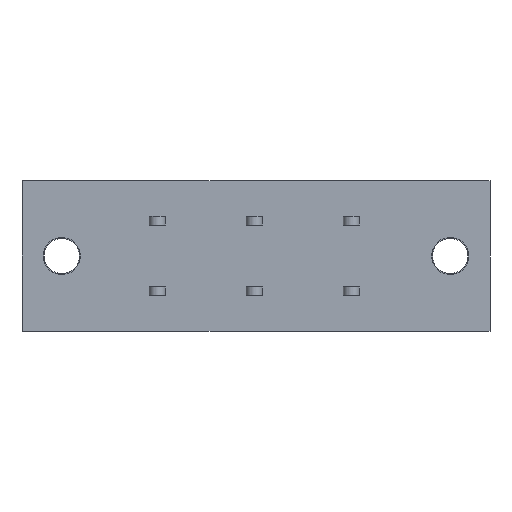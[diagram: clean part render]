
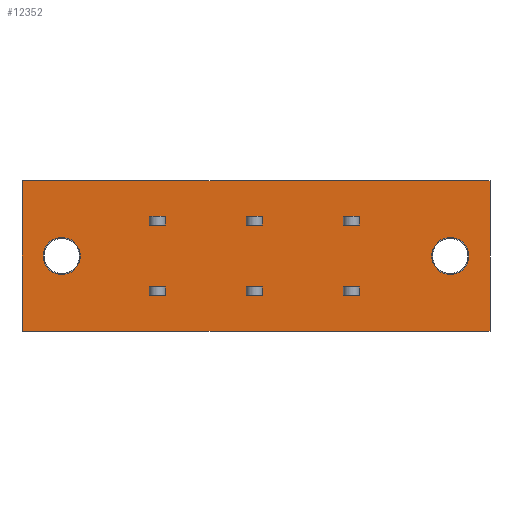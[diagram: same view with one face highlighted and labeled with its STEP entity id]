
A CAD part, front view. The second image highlights one B-rep face of the part: STEP entity #12352.
In plain terms, the highlighted planar face has unit normal (0, -1, 0).
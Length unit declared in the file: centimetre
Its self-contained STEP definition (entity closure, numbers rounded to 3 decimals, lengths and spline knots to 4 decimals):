
#908=VECTOR('',#13540,1.);
#1399=VECTOR('',#14339,1.);
#1568=VECTOR('',#14782,1.);
#1572=VECTOR('',#14787,1.);
#1578=VECTOR('',#14797,1.);
#1581=VECTOR('',#14803,1.);
#1584=VECTOR('',#14807,1.);
#1596=VECTOR('',#14843,1.);
#1597=VECTOR('',#14845,1.);
#1608=VECTOR('',#14861,1.);
#1618=VECTOR('',#14878,1.);
#1619=VECTOR('',#14879,1.);
#1620=VECTOR('',#14880,1.);
#1621=VECTOR('',#14881,1.);
#1622=VECTOR('',#14882,1.);
#1623=VECTOR('',#14883,1.);
#1624=VECTOR('',#14884,1.);
#1625=VECTOR('',#14885,1.);
#1626=VECTOR('',#14886,1.);
#1627=VECTOR('',#14887,1.);
#1628=VECTOR('',#14888,1.);
#1629=VECTOR('',#14889,1.);
#1630=VECTOR('',#14890,1.);
#1631=VECTOR('',#14891,1.);
#1632=VECTOR('',#14892,1.);
#1633=VECTOR('',#14893,1.);
#1634=VECTOR('',#14894,1.);
#1635=VECTOR('',#14895,1.);
#2280=LINE('',#17008,#908);
#2771=LINE('',#18847,#1399);
#2940=LINE('',#19402,#1568);
#2944=LINE('',#19411,#1572);
#2950=LINE('',#19426,#1578);
#2953=LINE('',#19435,#1581);
#2956=LINE('',#19441,#1584);
#2968=LINE('',#19476,#1596);
#2969=LINE('',#19478,#1597);
#2980=LINE('',#19499,#1608);
#2990=LINE('',#19521,#1618);
#2991=LINE('',#19524,#1619);
#2992=LINE('',#19526,#1620);
#2993=LINE('',#19528,#1621);
#2994=LINE('',#19529,#1622);
#2995=LINE('',#19532,#1623);
#2996=LINE('',#19534,#1624);
#2997=LINE('',#19536,#1625);
#2998=LINE('',#19537,#1626);
#2999=LINE('',#19540,#1627);
#3000=LINE('',#19542,#1628);
#3001=LINE('',#19544,#1629);
#3002=LINE('',#19545,#1630);
#3003=LINE('',#19548,#1631);
#3004=LINE('',#19550,#1632);
#3005=LINE('',#19552,#1633);
#3006=LINE('',#19553,#1634);
#3007=LINE('',#19554,#1635);
#3659=VERTEX_POINT('',#17009);
#3660=VERTEX_POINT('',#17010);
#3671=VERTEX_POINT('',#17034);
#4106=VERTEX_POINT('',#18848);
#4107=VERTEX_POINT('',#18849);
#4118=VERTEX_POINT('',#18873);
#4289=VERTEX_POINT('',#19403);
#4290=VERTEX_POINT('',#19404);
#4293=VERTEX_POINT('',#19412);
#4299=VERTEX_POINT('',#19427);
#4300=VERTEX_POINT('',#19428);
#4303=VERTEX_POINT('',#19436);
#4305=VERTEX_POINT('',#19442);
#4314=VERTEX_POINT('',#19479);
#4325=VERTEX_POINT('',#19522);
#4326=VERTEX_POINT('',#19523);
#4327=VERTEX_POINT('',#19525);
#4328=VERTEX_POINT('',#19527);
#4329=VERTEX_POINT('',#19530);
#4330=VERTEX_POINT('',#19531);
#4331=VERTEX_POINT('',#19533);
#4332=VERTEX_POINT('',#19535);
#4333=VERTEX_POINT('',#19538);
#4334=VERTEX_POINT('',#19539);
#4335=VERTEX_POINT('',#19541);
#4336=VERTEX_POINT('',#19543);
#4337=VERTEX_POINT('',#19546);
#4338=VERTEX_POINT('',#19547);
#4339=VERTEX_POINT('',#19549);
#4340=VERTEX_POINT('',#19551);
#4547=CIRCLE('',#20381,0.21);
#4590=CIRCLE('',#20618,0.21);
#5273=EDGE_CURVE('',#3659,#3660,#2280,.T.);
#5285=EDGE_CURVE('',#3671,#3671,#4547,.T.);
#5928=EDGE_CURVE('',#4106,#4107,#2771,.T.);
#5940=EDGE_CURVE('',#4118,#4118,#4590,.T.);
#6189=EDGE_CURVE('',#4289,#4290,#2940,.T.);
#6193=EDGE_CURVE('',#4293,#4289,#2944,.T.);
#6200=EDGE_CURVE('',#4299,#4300,#2950,.T.);
#6204=EDGE_CURVE('',#4303,#4299,#2953,.T.);
#6207=EDGE_CURVE('',#4305,#4303,#2956,.T.);
#6225=EDGE_CURVE('',#4300,#4305,#2968,.T.);
#6226=EDGE_CURVE('',#4314,#4293,#2969,.T.);
#6237=EDGE_CURVE('',#4290,#4314,#2980,.T.);
#6248=EDGE_CURVE('',#4325,#4326,#2990,.T.);
#6249=EDGE_CURVE('',#4327,#4325,#2991,.T.);
#6250=EDGE_CURVE('',#4328,#4327,#2992,.T.);
#6251=EDGE_CURVE('',#4326,#4328,#2993,.T.);
#6252=EDGE_CURVE('',#4329,#4330,#2994,.T.);
#6253=EDGE_CURVE('',#4331,#4329,#2995,.T.);
#6254=EDGE_CURVE('',#4332,#4331,#2996,.T.);
#6255=EDGE_CURVE('',#4330,#4332,#2997,.T.);
#6256=EDGE_CURVE('',#4333,#4334,#2998,.T.);
#6257=EDGE_CURVE('',#4334,#4335,#2999,.T.);
#6258=EDGE_CURVE('',#4335,#4336,#3000,.T.);
#6259=EDGE_CURVE('',#4336,#4333,#3001,.T.);
#6260=EDGE_CURVE('',#4337,#4338,#3002,.T.);
#6261=EDGE_CURVE('',#4338,#4339,#3003,.T.);
#6262=EDGE_CURVE('',#4339,#4340,#3004,.T.);
#6263=EDGE_CURVE('',#4340,#4337,#3005,.T.);
#6264=EDGE_CURVE('',#4107,#3659,#3006,.T.);
#6265=EDGE_CURVE('',#3660,#4106,#3007,.T.);
#9520=ORIENTED_EDGE('',*,*,#5285,.T.);
#9521=ORIENTED_EDGE('',*,*,#5940,.T.);
#9522=ORIENTED_EDGE('',*,*,#6248,.F.);
#9523=ORIENTED_EDGE('',*,*,#6249,.F.);
#9524=ORIENTED_EDGE('',*,*,#6250,.F.);
#9525=ORIENTED_EDGE('',*,*,#6251,.F.);
#9526=ORIENTED_EDGE('',*,*,#6252,.F.);
#9527=ORIENTED_EDGE('',*,*,#6253,.F.);
#9528=ORIENTED_EDGE('',*,*,#6254,.F.);
#9529=ORIENTED_EDGE('',*,*,#6255,.F.);
#9530=ORIENTED_EDGE('',*,*,#6256,.T.);
#9531=ORIENTED_EDGE('',*,*,#6257,.T.);
#9532=ORIENTED_EDGE('',*,*,#6258,.T.);
#9533=ORIENTED_EDGE('',*,*,#6259,.T.);
#9534=ORIENTED_EDGE('',*,*,#6260,.T.);
#9535=ORIENTED_EDGE('',*,*,#6261,.T.);
#9536=ORIENTED_EDGE('',*,*,#6262,.T.);
#9537=ORIENTED_EDGE('',*,*,#6263,.T.);
#9538=ORIENTED_EDGE('',*,*,#6264,.T.);
#9539=ORIENTED_EDGE('',*,*,#5273,.T.);
#9540=ORIENTED_EDGE('',*,*,#6265,.T.);
#9541=ORIENTED_EDGE('',*,*,#5928,.T.);
#9542=ORIENTED_EDGE('',*,*,#6207,.T.);
#9543=ORIENTED_EDGE('',*,*,#6204,.T.);
#9544=ORIENTED_EDGE('',*,*,#6200,.T.);
#9545=ORIENTED_EDGE('',*,*,#6225,.T.);
#9546=ORIENTED_EDGE('',*,*,#6193,.T.);
#9547=ORIENTED_EDGE('',*,*,#6189,.T.);
#9548=ORIENTED_EDGE('',*,*,#6237,.T.);
#9549=ORIENTED_EDGE('',*,*,#6226,.T.);
#10884=EDGE_LOOP('',(#9520));
#10885=EDGE_LOOP('',(#9521));
#10886=EDGE_LOOP('',(#9522,#9523,#9524,#9525));
#10887=EDGE_LOOP('',(#9526,#9527,#9528,#9529));
#10888=EDGE_LOOP('',(#9530,#9531,#9532,#9533));
#10889=EDGE_LOOP('',(#9534,#9535,#9536,#9537));
#10890=EDGE_LOOP('',(#9538,#9539,#9540,#9541));
#10891=EDGE_LOOP('',(#9542,#9543,#9544,#9545));
#10892=EDGE_LOOP('',(#9546,#9547,#9548,#9549));
#11650=FACE_BOUND('',#10884,.T.);
#11651=FACE_BOUND('',#10885,.T.);
#11652=FACE_BOUND('',#10886,.T.);
#11653=FACE_BOUND('',#10887,.T.);
#11654=FACE_BOUND('',#10888,.T.);
#11655=FACE_BOUND('',#10889,.T.);
#11656=FACE_BOUND('',#10890,.T.);
#11657=FACE_BOUND('',#10891,.T.);
#11658=FACE_BOUND('',#10892,.T.);
#12352=ADVANCED_FACE('',(#11650,#11651,#11652,#11653,#11654,#11655,#11656,
#11657,#11658),#12863,.T.);
#12863=PLANE('',#20808);
#13540=DIRECTION('',(0.,0.,1.));
#13558=DIRECTION('',(0.,1.,0.));
#13559=DIRECTION('',(0.21,0.,0.));
#14339=DIRECTION('',(0.,0.,-1.));
#14357=DIRECTION('',(0.,1.,0.));
#14358=DIRECTION('',(-0.21,0.,0.));
#14782=DIRECTION('',(0.,0.,-1.));
#14787=DIRECTION('',(1.,0.,0.));
#14797=DIRECTION('',(1.,0.,0.));
#14803=DIRECTION('',(0.,0.,1.));
#14807=DIRECTION('',(-1.,0.,0.));
#14843=DIRECTION('',(0.,0.,-1.));
#14845=DIRECTION('',(0.,0.,1.));
#14861=DIRECTION('',(-1.,0.,0.));
#14877=DIRECTION('',(0.,-1.,0.));
#14878=DIRECTION('',(1.,0.,0.));
#14879=DIRECTION('',(0.,0.,-1.));
#14880=DIRECTION('',(-1.,0.,0.));
#14881=DIRECTION('',(0.,0.,1.));
#14882=DIRECTION('',(-1.,0.,0.));
#14883=DIRECTION('',(0.,0.,1.));
#14884=DIRECTION('',(1.,0.,0.));
#14885=DIRECTION('',(0.,0.,-1.));
#14886=DIRECTION('',(1.,0.,0.));
#14887=DIRECTION('',(0.,0.,-1.));
#14888=DIRECTION('',(-1.,0.,0.));
#14889=DIRECTION('',(0.,0.,1.));
#14890=DIRECTION('',(-1.,0.,0.));
#14891=DIRECTION('',(0.,0.,1.));
#14892=DIRECTION('',(1.,0.,0.));
#14893=DIRECTION('',(0.,0.,-1.));
#14894=DIRECTION('',(1.,0.,0.));
#14895=DIRECTION('',(-1.,0.,0.));
#17008=CARTESIAN_POINT('',(3.3,0.,0.85));
#17009=CARTESIAN_POINT('',(3.3,0.,-0.85));
#17010=CARTESIAN_POINT('',(3.3,0.,0.85));
#17033=CARTESIAN_POINT('',(2.85,0.,0.));
#17034=CARTESIAN_POINT('',(2.64,0.,0.));
#18847=CARTESIAN_POINT('',(-2.,0.,-0.85));
#18848=CARTESIAN_POINT('',(-2.,0.,0.85));
#18849=CARTESIAN_POINT('',(-2.,0.,-0.85));
#18872=CARTESIAN_POINT('',(-1.55,0.,0.));
#18873=CARTESIAN_POINT('',(-1.34,0.,0.));
#19402=CARTESIAN_POINT('',(1.82,0.,-0.2));
#19403=CARTESIAN_POINT('',(1.82,0.,-0.35));
#19404=CARTESIAN_POINT('',(1.82,0.,-0.45));
#19411=CARTESIAN_POINT('',(0.865,0.,-0.35));
#19412=CARTESIAN_POINT('',(1.64,0.,-0.35));
#19426=CARTESIAN_POINT('',(0.865,0.,0.45));
#19427=CARTESIAN_POINT('',(1.64,0.,0.45));
#19428=CARTESIAN_POINT('',(1.82,0.,0.45));
#19435=CARTESIAN_POINT('',(1.64,0.,0.2));
#19436=CARTESIAN_POINT('',(1.64,0.,0.35));
#19441=CARTESIAN_POINT('',(0.865,0.,0.35));
#19442=CARTESIAN_POINT('',(1.82,0.,0.35));
#19476=CARTESIAN_POINT('',(1.82,0.,0.2));
#19478=CARTESIAN_POINT('',(1.64,0.,-0.2));
#19479=CARTESIAN_POINT('',(1.64,0.,-0.45));
#19499=CARTESIAN_POINT('',(0.865,0.,-0.45));
#19520=CARTESIAN_POINT('',(0.,0.,0.));
#19521=CARTESIAN_POINT('',(-0.685,0.,0.35));
#19522=CARTESIAN_POINT('',(-0.56,0.,0.35));
#19523=CARTESIAN_POINT('',(-0.38,0.,0.35));
#19524=CARTESIAN_POINT('',(-0.56,0.,0.2));
#19525=CARTESIAN_POINT('',(-0.56,0.,0.45));
#19526=CARTESIAN_POINT('',(-0.685,0.,0.45));
#19527=CARTESIAN_POINT('',(-0.38,0.,0.45));
#19528=CARTESIAN_POINT('',(-0.38,0.,0.2));
#19529=CARTESIAN_POINT('',(-0.685,0.,-0.35));
#19530=CARTESIAN_POINT('',(-0.38,0.,-0.35));
#19531=CARTESIAN_POINT('',(-0.56,0.,-0.35));
#19532=CARTESIAN_POINT('',(-0.38,0.,-0.2));
#19533=CARTESIAN_POINT('',(-0.38,0.,-0.45));
#19534=CARTESIAN_POINT('',(-0.685,0.,-0.45));
#19535=CARTESIAN_POINT('',(-0.56,0.,-0.45));
#19536=CARTESIAN_POINT('',(-0.56,0.,-0.2));
#19537=CARTESIAN_POINT('',(0.315,0.,-0.35));
#19538=CARTESIAN_POINT('',(0.54,0.,-0.35));
#19539=CARTESIAN_POINT('',(0.72,0.,-0.35));
#19540=CARTESIAN_POINT('',(0.72,0.,-0.2));
#19541=CARTESIAN_POINT('',(0.72,0.,-0.45));
#19542=CARTESIAN_POINT('',(0.315,0.,-0.45));
#19543=CARTESIAN_POINT('',(0.54,0.,-0.45));
#19544=CARTESIAN_POINT('',(0.54,0.,-0.2));
#19545=CARTESIAN_POINT('',(0.315,0.,0.35));
#19546=CARTESIAN_POINT('',(0.72,0.,0.35));
#19547=CARTESIAN_POINT('',(0.54,0.,0.35));
#19548=CARTESIAN_POINT('',(0.54,0.,0.2));
#19549=CARTESIAN_POINT('',(0.54,0.,0.45));
#19550=CARTESIAN_POINT('',(0.315,0.,0.45));
#19551=CARTESIAN_POINT('',(0.72,0.,0.45));
#19552=CARTESIAN_POINT('',(0.72,0.,0.2));
#19553=CARTESIAN_POINT('',(0.,0.,-0.85));
#19554=CARTESIAN_POINT('',(-1.1,0.,0.85));
#20381=AXIS2_PLACEMENT_3D('',#17033,#13558,#13559);
#20618=AXIS2_PLACEMENT_3D('',#18872,#14357,#14358);
#20808=AXIS2_PLACEMENT_3D('',#19520,#14877,$);
